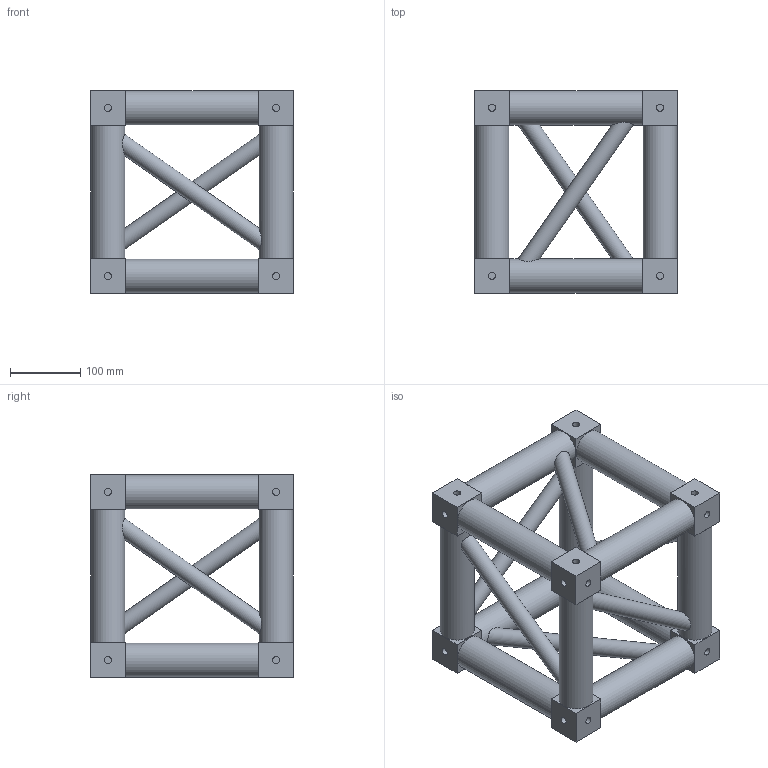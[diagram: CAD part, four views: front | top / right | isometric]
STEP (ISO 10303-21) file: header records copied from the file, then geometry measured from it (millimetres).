
FILE_DESCRIPTION(/* description */ (''),/* implementation_level */ '2;1');
FILE_NAME(/* name */ 'M:\Symbolen_NIEUW\STP\Boxcorner\111130016.stp',/* time_stamp */ '2015-05-19T10:37:16+02:00',/* author */ ('Stephan'),/* organization */ (''),/* preprocessor_version */ 'ST-DEVELOPER v15.6',/* originating_system */ 'Autodesk Inventor 2015',/* authorisation */ '');
FILE_SCHEMA (('AUTOMOTIVE_DESIGN { 1 0 10303 214 3 1 1 }'));
Length unit declared in the file: millimetre
Products named in the file (1): 160024212
Bounding box: 289 x 289 x 289 mm (x, y, z)
Volume: 5762622.4 mm3; surface area: 555548.2 mm2
Topology: 1 solids, 1 shells, 144 faces, 400 edges, 264 vertices
Faces by surface type: plane 78, cylinder 66
Full cylindrical faces by diameter (mm): 10.106 x48, 25 x6, 48.3 x12
Entity records: 4797 total; most frequent: CARTESIAN_POINT 1197, DIRECTION 746, ORIENTED_EDGE 576, AXIS2_PLACEMENT_3D 325, EDGE_CURVE 288, EDGE_LOOP 270, VERTEX_POINT 218, STYLED_ITEM 145
